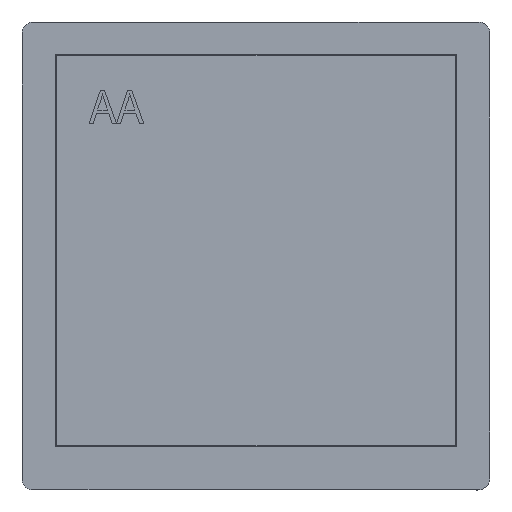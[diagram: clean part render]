
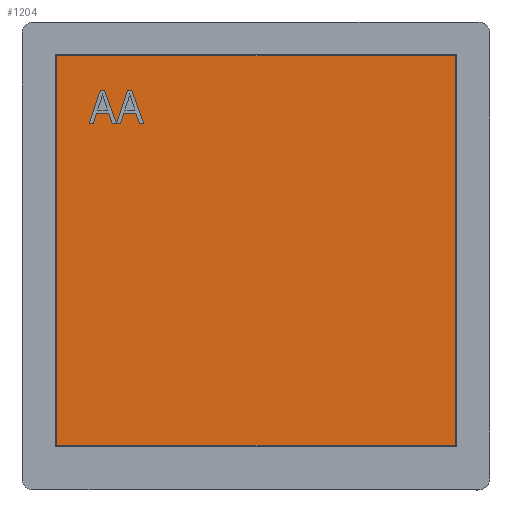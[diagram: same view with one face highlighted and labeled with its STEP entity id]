
A CAD part, top view. The second image highlights one B-rep face of the part: STEP entity #1204.
In plain terms, the highlighted planar face has unit normal (0, 0, 1).
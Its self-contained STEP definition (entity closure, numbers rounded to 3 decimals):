
#158=B_SPLINE_CURVE_WITH_KNOTS('',3,(#4417,#4418,#4419,#4420),
 .UNSPECIFIED.,.F.,.F.,(4,4),(0.,1.),.UNSPECIFIED.);
#160=B_SPLINE_CURVE_WITH_KNOTS('',3,(#4429,#4430,#4431,#4432),
 .UNSPECIFIED.,.F.,.F.,(4,4),(0.,1.),.UNSPECIFIED.);
#162=B_SPLINE_CURVE_WITH_KNOTS('',3,(#4441,#4442,#4443,#4444),
 .UNSPECIFIED.,.F.,.F.,(4,4),(0.,1.),.UNSPECIFIED.);
#164=B_SPLINE_CURVE_WITH_KNOTS('',3,(#4452,#4453,#4454,#4455),
 .UNSPECIFIED.,.F.,.F.,(4,4),(0.,1.),.UNSPECIFIED.);
#1204=ADVANCED_FACE('',(#1443),#1327,.T.);
#1327=PLANE('',#3203);
#1443=FACE_OUTER_BOUND('',#1574,.T.);
#1574=EDGE_LOOP('',(#1973,#1974,#1975,#1976));
#1973=ORIENTED_EDGE('',*,*,#2583,.F.);
#1974=ORIENTED_EDGE('',*,*,#2592,.F.);
#1975=ORIENTED_EDGE('',*,*,#2589,.F.);
#1976=ORIENTED_EDGE('',*,*,#2586,.F.);
#2329=VERTEX_POINT('',#4416);
#2330=VERTEX_POINT('',#4421);
#2332=VERTEX_POINT('',#4433);
#2334=VERTEX_POINT('',#4445);
#2583=EDGE_CURVE('',#2329,#2330,#158,.T.);
#2586=EDGE_CURVE('',#2330,#2332,#160,.T.);
#2589=EDGE_CURVE('',#2332,#2334,#162,.T.);
#2592=EDGE_CURVE('',#2334,#2329,#164,.T.);
#3203=AXIS2_PLACEMENT_3D('',#4457,#3568,#3569);
#3568=DIRECTION('',(0.,0.,1.));
#3569=DIRECTION('',(1.,0.,0.));
#4416=CARTESIAN_POINT('',(111.894,31.445,0.57));
#4417=CARTESIAN_POINT('',(111.894,31.445,0.57));
#4418=CARTESIAN_POINT('',(135.846,31.445,0.57));
#4419=CARTESIAN_POINT('',(159.798,31.445,0.57));
#4420=CARTESIAN_POINT('',(183.75,31.445,0.57));
#4421=CARTESIAN_POINT('',(183.75,31.445,0.57));
#4429=CARTESIAN_POINT('',(183.75,31.445,0.57));
#4430=CARTESIAN_POINT('',(183.75,8.053,0.57));
#4431=CARTESIAN_POINT('',(183.75,-15.339,0.57));
#4432=CARTESIAN_POINT('',(183.75,-38.731,0.57));
#4433=CARTESIAN_POINT('',(183.75,-38.731,0.57));
#4441=CARTESIAN_POINT('',(183.75,-38.731,0.57));
#4442=CARTESIAN_POINT('',(159.798,-38.731,0.57));
#4443=CARTESIAN_POINT('',(135.846,-38.731,0.57));
#4444=CARTESIAN_POINT('',(111.894,-38.731,0.57));
#4445=CARTESIAN_POINT('',(111.894,-38.731,0.57));
#4452=CARTESIAN_POINT('',(111.894,-38.731,0.57));
#4453=CARTESIAN_POINT('',(111.894,-15.339,0.57));
#4454=CARTESIAN_POINT('',(111.894,8.053,0.57));
#4455=CARTESIAN_POINT('',(111.894,31.445,0.57));
#4457=CARTESIAN_POINT('',(147.822,31.445,0.57));
